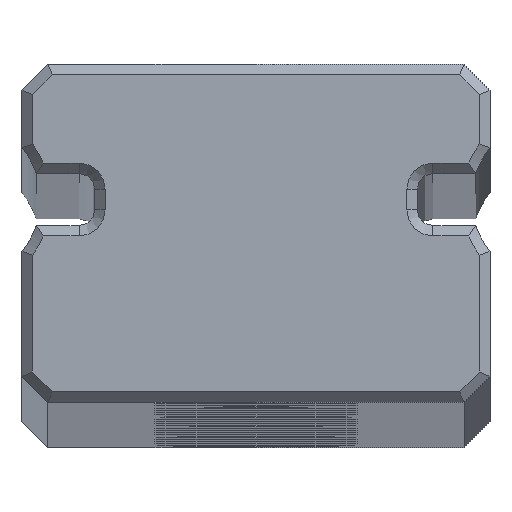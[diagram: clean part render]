
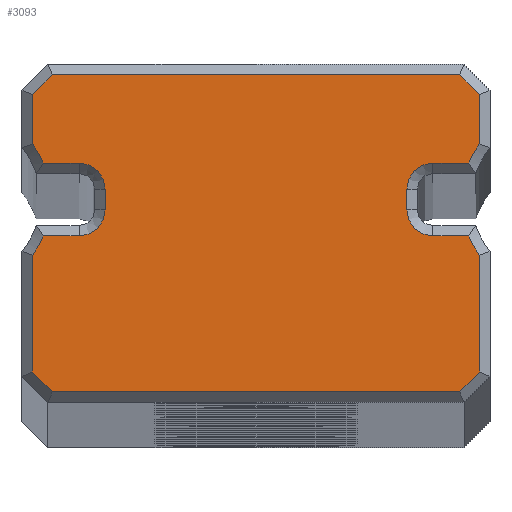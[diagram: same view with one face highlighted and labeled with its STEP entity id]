
A CAD part, top view. The second image highlights one B-rep face of the part: STEP entity #3093.
In plain terms, the highlighted planar face has unit normal (0, 0, 1).
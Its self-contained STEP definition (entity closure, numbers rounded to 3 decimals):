
#193=CIRCLE('',#3328,1.788);
#194=CIRCLE('',#3331,0.5);
#195=CIRCLE('',#3334,0.5);
#197=CIRCLE('',#3339,1.788);
#198=CIRCLE('',#3345,1.788);
#201=CIRCLE('',#3350,0.5);
#203=CIRCLE('',#3354,0.5);
#204=CIRCLE('',#3357,1.788);
#489=FACE_OUTER_BOUND('',#713,.T.);
#713=EDGE_LOOP('',(#2381,#2382,#2383,#2384,#2385,#2386,#2387,#2388,#2389,
#2390,#2391,#2392,#2393,#2394,#2395,#2396,#2397,#2398,#2399,#2400,#2401,
#2402,#2403,#2404));
#979=LINE('',#4961,#1199);
#982=LINE('',#4973,#1202);
#985=LINE('',#4981,#1205);
#987=LINE('',#4988,#1207);
#988=LINE('',#4996,#1208);
#991=LINE('',#5016,#1211);
#994=LINE('',#5022,#1214);
#998=LINE('',#5030,#1218);
#1001=LINE('',#5034,#1221);
#1004=LINE('',#5049,#1224);
#1007=LINE('',#5060,#1227);
#1010=LINE('',#5070,#1230);
#1012=LINE('',#5085,#1232);
#1014=LINE('',#5089,#1234);
#1016=LINE('',#5093,#1236);
#1018=LINE('',#5096,#1238);
#1199=VECTOR('',#3887,10.);
#1202=VECTOR('',#3896,10.);
#1205=VECTOR('',#3905,10.);
#1207=VECTOR('',#3913,10.);
#1208=VECTOR('',#3916,10.);
#1211=VECTOR('',#3927,10.);
#1214=VECTOR('',#3932,10.);
#1218=VECTOR('',#3938,10.);
#1221=VECTOR('',#3943,10.);
#1224=VECTOR('',#3954,10.);
#1227=VECTOR('',#3965,10.);
#1230=VECTOR('',#3976,10.);
#1232=VECTOR('',#3984,10.);
#1234=VECTOR('',#3988,10.);
#1236=VECTOR('',#3992,10.);
#1238=VECTOR('',#3996,10.);
#1436=VERTEX_POINT('',#4955);
#1437=VERTEX_POINT('',#4960);
#1438=VERTEX_POINT('',#4964);
#1439=VERTEX_POINT('',#4971);
#1440=VERTEX_POINT('',#4975);
#1441=VERTEX_POINT('',#4979);
#1442=VERTEX_POINT('',#4983);
#1443=VERTEX_POINT('',#4987);
#1444=VERTEX_POINT('',#4994);
#1445=VERTEX_POINT('',#4995);
#1449=VERTEX_POINT('',#5008);
#1450=VERTEX_POINT('',#5015);
#1452=VERTEX_POINT('',#5021);
#1455=VERTEX_POINT('',#5029);
#1456=VERTEX_POINT('',#5036);
#1459=VERTEX_POINT('',#5047);
#1461=VERTEX_POINT('',#5053);
#1463=VERTEX_POINT('',#5058);
#1465=VERTEX_POINT('',#5065);
#1466=VERTEX_POINT('',#5069);
#1467=VERTEX_POINT('',#5077);
#1468=VERTEX_POINT('',#5084);
#1469=VERTEX_POINT('',#5088);
#1470=VERTEX_POINT('',#5092);
#1744=EDGE_CURVE('',#1436,#1437,#979,.T.);
#1747=EDGE_CURVE('',#1438,#1436,#193,.T.);
#1749=EDGE_CURVE('',#1439,#1438,#982,.T.);
#1751=EDGE_CURVE('',#1440,#1439,#194,.T.);
#1753=EDGE_CURVE('',#1441,#1440,#985,.T.);
#1755=EDGE_CURVE('',#1442,#1441,#195,.T.);
#1756=EDGE_CURVE('',#1443,#1442,#987,.T.);
#1758=EDGE_CURVE('',#1444,#1445,#988,.T.);
#1764=EDGE_CURVE('',#1449,#1443,#197,.T.);
#1765=EDGE_CURVE('',#1445,#1450,#991,.T.);
#1768=EDGE_CURVE('',#1450,#1452,#994,.T.);
#1772=EDGE_CURVE('',#1452,#1455,#998,.T.);
#1775=EDGE_CURVE('',#1455,#1449,#1001,.T.);
#1776=EDGE_CURVE('',#1456,#1444,#198,.T.);
#1781=EDGE_CURVE('',#1459,#1456,#1004,.T.);
#1784=EDGE_CURVE('',#1461,#1459,#201,.T.);
#1786=EDGE_CURVE('',#1463,#1461,#1007,.T.);
#1790=EDGE_CURVE('',#1465,#1463,#203,.T.);
#1791=EDGE_CURVE('',#1466,#1465,#1010,.T.);
#1794=EDGE_CURVE('',#1467,#1466,#204,.T.);
#1796=EDGE_CURVE('',#1437,#1468,#1012,.T.);
#1798=EDGE_CURVE('',#1469,#1467,#1014,.T.);
#1800=EDGE_CURVE('',#1468,#1470,#1016,.T.);
#1802=EDGE_CURVE('',#1470,#1469,#1018,.T.);
#2381=ORIENTED_EDGE('',*,*,#1758,.F.);
#2382=ORIENTED_EDGE('',*,*,#1776,.F.);
#2383=ORIENTED_EDGE('',*,*,#1781,.F.);
#2384=ORIENTED_EDGE('',*,*,#1784,.F.);
#2385=ORIENTED_EDGE('',*,*,#1786,.F.);
#2386=ORIENTED_EDGE('',*,*,#1790,.F.);
#2387=ORIENTED_EDGE('',*,*,#1791,.F.);
#2388=ORIENTED_EDGE('',*,*,#1794,.F.);
#2389=ORIENTED_EDGE('',*,*,#1798,.F.);
#2390=ORIENTED_EDGE('',*,*,#1802,.F.);
#2391=ORIENTED_EDGE('',*,*,#1800,.F.);
#2392=ORIENTED_EDGE('',*,*,#1796,.F.);
#2393=ORIENTED_EDGE('',*,*,#1744,.F.);
#2394=ORIENTED_EDGE('',*,*,#1747,.F.);
#2395=ORIENTED_EDGE('',*,*,#1749,.F.);
#2396=ORIENTED_EDGE('',*,*,#1751,.F.);
#2397=ORIENTED_EDGE('',*,*,#1753,.F.);
#2398=ORIENTED_EDGE('',*,*,#1755,.F.);
#2399=ORIENTED_EDGE('',*,*,#1756,.F.);
#2400=ORIENTED_EDGE('',*,*,#1764,.F.);
#2401=ORIENTED_EDGE('',*,*,#1775,.F.);
#2402=ORIENTED_EDGE('',*,*,#1772,.F.);
#2403=ORIENTED_EDGE('',*,*,#1768,.F.);
#2404=ORIENTED_EDGE('',*,*,#1765,.F.);
#2995=PLANE('',#3369);
#3093=ADVANCED_FACE('',(#489),#2995,.T.);
#3328=AXIS2_PLACEMENT_3D('',#4969,#3891,#3892);
#3331=AXIS2_PLACEMENT_3D('',#4977,#3900,#3901);
#3334=AXIS2_PLACEMENT_3D('',#4985,#3909,#3910);
#3339=AXIS2_PLACEMENT_3D('',#5013,#3923,#3924);
#3345=AXIS2_PLACEMENT_3D('',#5037,#3946,#3947);
#3350=AXIS2_PLACEMENT_3D('',#5055,#3960,#3961);
#3354=AXIS2_PLACEMENT_3D('',#5067,#3972,#3973);
#3357=AXIS2_PLACEMENT_3D('',#5078,#3980,#3981);
#3369=AXIS2_PLACEMENT_3D('',#5111,#4018,#4019);
#3887=DIRECTION('',(0.,1.,0.));
#3891=DIRECTION('center_axis',(0.,0.,1.));
#3892=DIRECTION('ref_axis',(0.777,-0.63,0.));
#3896=DIRECTION('',(-1.,0.,0.));
#3900=DIRECTION('center_axis',(0.,0.,1.));
#3901=DIRECTION('ref_axis',(0.707,0.707,0.));
#3905=DIRECTION('',(0.,1.,0.));
#3909=DIRECTION('center_axis',(0.,0.,1.));
#3910=DIRECTION('ref_axis',(0.707,-0.707,0.));
#3913=DIRECTION('',(1.,0.,0.));
#3916=DIRECTION('',(0.,-1.,0.));
#3923=DIRECTION('center_axis',(0.,0.,1.));
#3924=DIRECTION('ref_axis',(0.777,-0.63,0.));
#3927=DIRECTION('',(-0.707,-0.707,0.));
#3932=DIRECTION('',(-1.,0.,0.));
#3938=DIRECTION('',(-0.707,0.707,0.));
#3943=DIRECTION('',(0.,1.,0.));
#3946=DIRECTION('center_axis',(0.,0.,1.));
#3947=DIRECTION('ref_axis',(-0.777,0.63,0.));
#3954=DIRECTION('',(1.,0.,0.));
#3960=DIRECTION('center_axis',(0.,0.,1.));
#3961=DIRECTION('ref_axis',(-0.707,-0.707,0.));
#3965=DIRECTION('',(0.,-1.,0.));
#3972=DIRECTION('center_axis',(0.,0.,1.));
#3973=DIRECTION('ref_axis',(-0.707,0.707,0.));
#3976=DIRECTION('',(-1.,0.,0.));
#3980=DIRECTION('center_axis',(0.,0.,1.));
#3981=DIRECTION('ref_axis',(-0.777,0.63,0.));
#3984=DIRECTION('',(0.707,0.707,0.));
#3988=DIRECTION('',(0.,-1.,0.));
#3992=DIRECTION('',(1.,0.,0.));
#3996=DIRECTION('',(0.707,-0.707,0.));
#4018=DIRECTION('center_axis',(0.,0.,1.));
#4019=DIRECTION('ref_axis',(1.,0.,0.));
#4955=CARTESIAN_POINT('',(-4.3,4.969,0.));
#4960=CARTESIAN_POINT('',(-4.3,5.917,0.));
#4961=CARTESIAN_POINT('',(-4.3,4.075,0.));
#4964=CARTESIAN_POINT('',(-4.088,4.6,0.));
#4969=CARTESIAN_POINT('Origin',(-5.733,3.9,0.));
#4971=CARTESIAN_POINT('',(-3.4,4.6,0.));
#4973=CARTESIAN_POINT('',(-1.55,4.6,0.));
#4975=CARTESIAN_POINT('',(-2.9,4.1,0.));
#4977=CARTESIAN_POINT('Origin',(-3.4,4.1,0.));
#4979=CARTESIAN_POINT('',(-2.9,3.7,0.));
#4981=CARTESIAN_POINT('',(-2.9,3.325,0.));
#4983=CARTESIAN_POINT('',(-3.4,3.2,0.));
#4985=CARTESIAN_POINT('Origin',(-3.4,3.7,0.));
#4987=CARTESIAN_POINT('',(-4.088,3.2,0.));
#4988=CARTESIAN_POINT('',(-2.113,3.2,0.));
#4994=CARTESIAN_POINT('',(4.3,2.831,0.));
#4995=CARTESIAN_POINT('',(4.3,0.583,0.));
#4996=CARTESIAN_POINT('',(4.3,3.075,0.));
#5008=CARTESIAN_POINT('',(-4.3,2.831,0.));
#5013=CARTESIAN_POINT('Origin',(-5.733,3.9,0.));
#5015=CARTESIAN_POINT('',(3.917,0.2,0.));
#5016=CARTESIAN_POINT('',(3.796,0.079,0.));
#5021=CARTESIAN_POINT('',(-3.917,0.2,0.));
#5022=CARTESIAN_POINT('',(2.25,0.2,0.));
#5029=CARTESIAN_POINT('',(-4.3,0.583,0.));
#5030=CARTESIAN_POINT('',(-3.796,0.079,0.));
#5034=CARTESIAN_POINT('',(-4.3,1.625,0.));
#5036=CARTESIAN_POINT('',(4.088,3.2,0.));
#5037=CARTESIAN_POINT('Origin',(5.733,3.9,0.));
#5047=CARTESIAN_POINT('',(3.4,3.2,0.));
#5049=CARTESIAN_POINT('',(1.55,3.2,0.));
#5053=CARTESIAN_POINT('',(2.9,3.7,0.));
#5055=CARTESIAN_POINT('Origin',(3.4,3.7,0.));
#5058=CARTESIAN_POINT('',(2.9,4.1,0.));
#5060=CARTESIAN_POINT('',(2.9,3.825,0.));
#5065=CARTESIAN_POINT('',(3.4,4.6,0.));
#5067=CARTESIAN_POINT('Origin',(3.4,4.1,0.));
#5069=CARTESIAN_POINT('',(4.088,4.6,0.));
#5070=CARTESIAN_POINT('',(2.113,4.6,0.));
#5077=CARTESIAN_POINT('',(4.3,4.969,0.));
#5078=CARTESIAN_POINT('Origin',(5.733,3.9,0.));
#5084=CARTESIAN_POINT('',(-3.917,6.3,0.));
#5085=CARTESIAN_POINT('',(-3.796,6.421,0.));
#5088=CARTESIAN_POINT('',(4.3,5.917,0.));
#5089=CARTESIAN_POINT('',(4.3,4.875,0.));
#5092=CARTESIAN_POINT('',(3.917,6.3,0.));
#5093=CARTESIAN_POINT('',(-2.25,6.3,0.));
#5096=CARTESIAN_POINT('',(3.796,6.421,0.));
#5111=CARTESIAN_POINT('Origin',(0.,3.25,0.));
